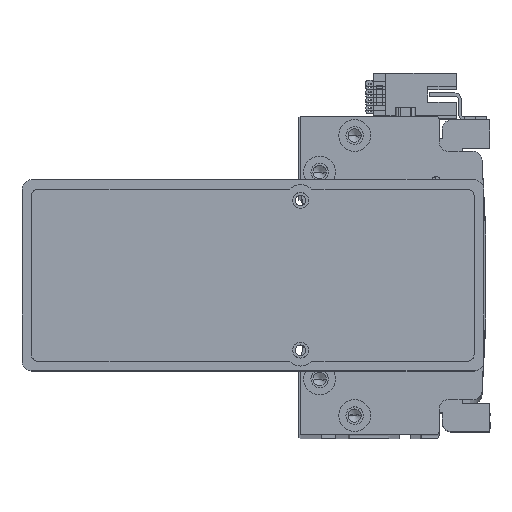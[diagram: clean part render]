
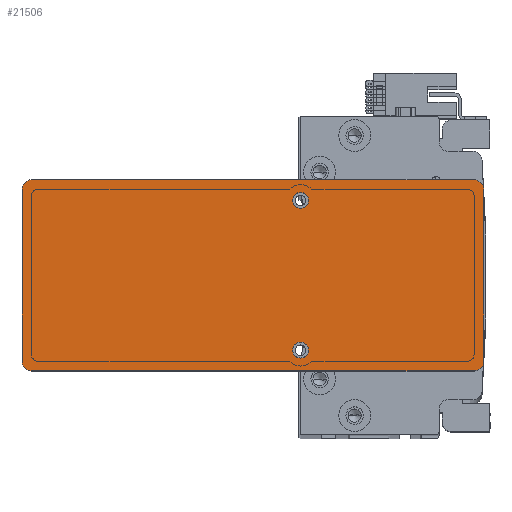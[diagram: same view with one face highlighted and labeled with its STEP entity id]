
A CAD part, top view. The second image highlights one B-rep face of the part: STEP entity #21506.
In plain terms, the highlighted planar face has unit normal (0, 0, 1) as drawn and (0, 0, -1) by its records, which use the part's own axes.
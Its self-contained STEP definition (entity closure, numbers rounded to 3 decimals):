
#73 = ORIENTED_EDGE ( 'NONE', *, *, #32963, .F. ) ;
#138 = LINE ( 'NONE', #16837, #1271 ) ;
#500 = DIRECTION ( 'NONE',  ( 1., 0., 0. ) ) ;
#1271 = VECTOR ( 'NONE', #30378, 1000. ) ;
#1712 = DIRECTION ( 'NONE',  ( 0., 0., -1. ) ) ;
#1910 = CARTESIAN_POINT ( 'NONE',  ( 15., 23.5, 0. ) ) ;
#2611 = CARTESIAN_POINT ( 'NONE',  ( 0., 0., 0. ) ) ;
#2741 = VERTEX_POINT ( 'NONE', #11981 ) ;
#2979 = CIRCLE ( 'NONE', #24976, 2.5 ) ;
#3063 = ORIENTED_EDGE ( 'NONE', *, *, #45928, .F. ) ;
#3262 = FACE_BOUND ( 'NONE', #5141, .T. ) ;
#3332 = AXIS2_PLACEMENT_3D ( 'NONE', #5239, #30670, #8924 ) ;
#3581 = ORIENTED_EDGE ( 'NONE', *, *, #33769, .F. ) ;
#4523 = VERTEX_POINT ( 'NONE', #29689 ) ;
#5012 = CARTESIAN_POINT ( 'NONE',  ( -72.5, -30., 0. ) ) ;
#5141 = EDGE_LOOP ( 'NONE', ( #11897, #3063 ) ) ;
#5227 = VECTOR ( 'NONE', #20747, 1000. ) ;
#5239 = CARTESIAN_POINT ( 'NONE',  ( 15., -23.5, 0. ) ) ;
#5284 = DIRECTION ( 'NONE',  ( 0., 0., -1. ) ) ;
#5583 = DIRECTION ( 'NONE',  ( -1., 0., 0. ) ) ;
#5594 = CARTESIAN_POINT ( 'NONE',  ( 72.5, 27., 0. ) ) ;
#6131 = PLANE ( 'NONE',  #13097 ) ;
#6290 = DIRECTION ( 'NONE',  ( 1., 0., 0. ) ) ;
#8131 = VERTEX_POINT ( 'NONE', #23117 ) ;
#8584 = CARTESIAN_POINT ( 'NONE',  ( -69.5, -30., 0. ) ) ;
#8640 = EDGE_CURVE ( 'NONE', #39329, #8131, #25134, .T. ) ;
#8698 = DIRECTION ( 'NONE',  ( 0., -1., 0. ) ) ;
#8924 = DIRECTION ( 'NONE',  ( -1., 0., 0. ) ) ;
#9065 = AXIS2_PLACEMENT_3D ( 'NONE', #11896, #37338, #15588 ) ;
#9098 = ORIENTED_EDGE ( 'NONE', *, *, #8640, .T. ) ;
#9909 = VERTEX_POINT ( 'NONE', #5594 ) ;
#10837 = CARTESIAN_POINT ( 'NONE',  ( 15., -23.5, 0. ) ) ;
#11896 = CARTESIAN_POINT ( 'NONE',  ( 69.5, 27., 0. ) ) ;
#11897 = ORIENTED_EDGE ( 'NONE', *, *, #16238, .F. ) ;
#11981 = CARTESIAN_POINT ( 'NONE',  ( 69.5, -30., 0. ) ) ;
#12884 = CARTESIAN_POINT ( 'NONE',  ( -72.5, 27., 0. ) ) ;
#13097 = AXIS2_PLACEMENT_3D ( 'NONE', #2611, #28104, #6290 ) ;
#13426 = VERTEX_POINT ( 'NONE', #33823 ) ;
#13521 = EDGE_LOOP ( 'NONE', ( #73, #27321, #3581, #9098, #39182, #19883, #37560, #22153 ) ) ;
#14537 = DIRECTION ( 'NONE',  ( -1., 0., 0. ) ) ;
#15588 = DIRECTION ( 'NONE',  ( 1., 0., 0. ) ) ;
#16048 = CIRCLE ( 'NONE', #19747, 2.5 ) ;
#16238 = EDGE_CURVE ( 'NONE', #13426, #47126, #44397, .T. ) ;
#16837 = CARTESIAN_POINT ( 'NONE',  ( 72.5, 30., 0. ) ) ;
#17172 = CIRCLE ( 'NONE', #9065, 3. ) ;
#19386 = VERTEX_POINT ( 'NONE', #12884 ) ;
#19599 = AXIS2_PLACEMENT_3D ( 'NONE', #44106, #22344, #500 ) ;
#19747 = AXIS2_PLACEMENT_3D ( 'NONE', #20354, #45768, #24017 ) ;
#19808 = CIRCLE ( 'NONE', #3332, 2.5 ) ;
#19883 = ORIENTED_EDGE ( 'NONE', *, *, #38861, .T. ) ;
#20354 = CARTESIAN_POINT ( 'NONE',  ( 15., 23.5, 0. ) ) ;
#20718 = VERTEX_POINT ( 'NONE', #25463 ) ;
#20747 = DIRECTION ( 'NONE',  ( 0., 1., 0. ) ) ;
#20798 = CIRCLE ( 'NONE', #33885, 3. ) ;
#21506 = ADVANCED_FACE ( 'NONE', ( #3262, #21513, #31153 ), #6131, .F. ) ;
#21513 = FACE_BOUND ( 'NONE', #30975, .T. ) ;
#21629 = VERTEX_POINT ( 'NONE', #39814 ) ;
#21942 = CARTESIAN_POINT ( 'NONE',  ( 72.5, -30., 0. ) ) ;
#22153 = ORIENTED_EDGE ( 'NONE', *, *, #32132, .T. ) ;
#22344 = DIRECTION ( 'NONE',  ( 0., 0., -1. ) ) ;
#23117 = CARTESIAN_POINT ( 'NONE',  ( -72.5, -27., 0. ) ) ;
#23574 = CARTESIAN_POINT ( 'NONE',  ( 69.5, -27., 0. ) ) ;
#24017 = DIRECTION ( 'NONE',  ( -1., 0., 0. ) ) ;
#24275 = AXIS2_PLACEMENT_3D ( 'NONE', #1910, #27405, #5583 ) ;
#24976 = AXIS2_PLACEMENT_3D ( 'NONE', #10837, #36271, #14537 ) ;
#25134 = CIRCLE ( 'NONE', #19599, 3. ) ;
#25206 = ORIENTED_EDGE ( 'NONE', *, *, #39117, .F. ) ;
#25463 = CARTESIAN_POINT ( 'NONE',  ( 17.5, -23.5, 0. ) ) ;
#27079 = CARTESIAN_POINT ( 'NONE',  ( -69.5, 27., 0. ) ) ;
#27198 = DIRECTION ( 'NONE',  ( 1., 0., 0. ) ) ;
#27321 = ORIENTED_EDGE ( 'NONE', *, *, #35379, .T. ) ;
#27405 = DIRECTION ( 'NONE',  ( 0., 0., -1. ) ) ;
#27763 = ORIENTED_EDGE ( 'NONE', *, *, #47201, .F. ) ;
#28104 = DIRECTION ( 'NONE',  ( 0., 0., 1. ) ) ;
#29246 = DIRECTION ( 'NONE',  ( 1., 0., 0. ) ) ;
#29689 = CARTESIAN_POINT ( 'NONE',  ( -69.5, 30., 0. ) ) ;
#29737 = EDGE_CURVE ( 'NONE', #19386, #8131, #34007, .T. ) ;
#30378 = DIRECTION ( 'NONE',  ( -1., 0., 0. ) ) ;
#30670 = DIRECTION ( 'NONE',  ( 0., 0., -1. ) ) ;
#30693 = CARTESIAN_POINT ( 'NONE',  ( 12.5, -23.5, 0. ) ) ;
#30710 = DIRECTION ( 'NONE',  ( 1., 0., 0. ) ) ;
#30975 = EDGE_LOOP ( 'NONE', ( #25206, #27763 ) ) ;
#31153 = FACE_OUTER_BOUND ( 'NONE', #13521, .T. ) ;
#31524 = EDGE_CURVE ( 'NONE', #21629, #4523, #138, .T. ) ;
#32132 = EDGE_CURVE ( 'NONE', #21629, #9909, #17172, .T. ) ;
#32884 = VECTOR ( 'NONE', #8698, 1000. ) ;
#32963 = EDGE_CURVE ( 'NONE', #45593, #9909, #33153, .T. ) ;
#33153 = LINE ( 'NONE', #42521, #5227 ) ;
#33769 = EDGE_CURVE ( 'NONE', #39329, #2741, #44871, .T. ) ;
#33823 = CARTESIAN_POINT ( 'NONE',  ( 12.5, 23.5, 0. ) ) ;
#33885 = AXIS2_PLACEMENT_3D ( 'NONE', #23574, #1712, #27198 ) ;
#34007 = LINE ( 'NONE', #5012, #32884 ) ;
#35218 = VECTOR ( 'NONE', #29246, 1000. ) ;
#35379 = EDGE_CURVE ( 'NONE', #45593, #2741, #20798, .T. ) ;
#36271 = DIRECTION ( 'NONE',  ( 0., 0., -1. ) ) ;
#37338 = DIRECTION ( 'NONE',  ( 0., 0., -1. ) ) ;
#37560 = ORIENTED_EDGE ( 'NONE', *, *, #31524, .F. ) ;
#37690 = CARTESIAN_POINT ( 'NONE',  ( 17.5, 23.5, 0. ) ) ;
#38861 = EDGE_CURVE ( 'NONE', #19386, #4523, #41972, .T. ) ;
#39117 = EDGE_CURVE ( 'NONE', #45453, #20718, #2979, .T. ) ;
#39182 = ORIENTED_EDGE ( 'NONE', *, *, #29737, .F. ) ;
#39329 = VERTEX_POINT ( 'NONE', #8584 ) ;
#39814 = CARTESIAN_POINT ( 'NONE',  ( 69.5, 30., 0. ) ) ;
#41972 = CIRCLE ( 'NONE', #46297, 3. ) ;
#42521 = CARTESIAN_POINT ( 'NONE',  ( 72.5, -30., 0. ) ) ;
#44106 = CARTESIAN_POINT ( 'NONE',  ( -69.5, -27., 0. ) ) ;
#44397 = CIRCLE ( 'NONE', #24275, 2.5 ) ;
#44871 = LINE ( 'NONE', #21942, #35218 ) ;
#45453 = VERTEX_POINT ( 'NONE', #30693 ) ;
#45593 = VERTEX_POINT ( 'NONE', #46614 ) ;
#45768 = DIRECTION ( 'NONE',  ( 0., 0., -1. ) ) ;
#45928 = EDGE_CURVE ( 'NONE', #47126, #13426, #16048, .T. ) ;
#46297 = AXIS2_PLACEMENT_3D ( 'NONE', #27079, #5284, #30710 ) ;
#46614 = CARTESIAN_POINT ( 'NONE',  ( 72.5, -27., 0. ) ) ;
#47126 = VERTEX_POINT ( 'NONE', #37690 ) ;
#47201 = EDGE_CURVE ( 'NONE', #20718, #45453, #19808, .T. ) ;
